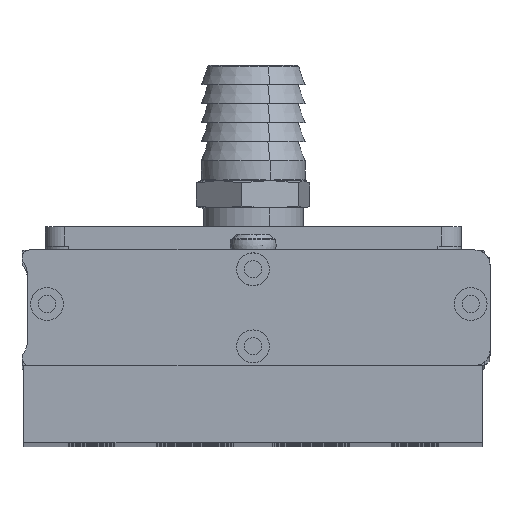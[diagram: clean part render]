
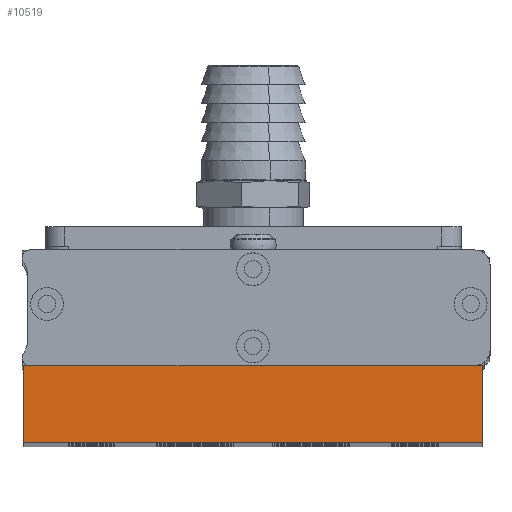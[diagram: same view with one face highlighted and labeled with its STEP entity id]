
A CAD part, top view. The second image highlights one B-rep face of the part: STEP entity #10519.
In plain terms, the highlighted planar face has unit normal (0, 0, 1).
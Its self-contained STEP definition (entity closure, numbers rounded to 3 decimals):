
#2150 = AXIS2_PLACEMENT_3D ( 'NONE', #27685, #33966, #25244 ) ;
#3622 = VECTOR ( 'NONE', #20690, 1000. ) ;
#5799 = PLANE ( 'NONE',  #2150 ) ;
#6305 = DIRECTION ( 'NONE',  ( 1., 0., 0. ) ) ;
#6623 = CARTESIAN_POINT ( 'NONE',  ( 36.4, -51.3, 297. ) ) ;
#6920 = CARTESIAN_POINT ( 'NONE',  ( -82.6, -71.3, 297. ) ) ;
#7080 = DIRECTION ( 'NONE',  ( 0., -1., 0. ) ) ;
#7533 = CARTESIAN_POINT ( 'NONE',  ( 36.4, -51.3, 297. ) ) ;
#9973 = VECTOR ( 'NONE', #7080, 1000. ) ;
#10519 = ADVANCED_FACE ( 'NONE', ( #10864 ), #5799, .F. ) ;
#10864 = FACE_OUTER_BOUND ( 'NONE', #13449, .T. ) ;
#11673 = CARTESIAN_POINT ( 'NONE',  ( -82.6, -71.3, 297. ) ) ;
#12363 = EDGE_CURVE ( 'NONE', #19229, #18068, #32591, .T. ) ;
#13449 = EDGE_LOOP ( 'NONE', ( #33932, #18809, #18543, #27839 ) ) ;
#15144 = EDGE_CURVE ( 'NONE', #17143, #15462, #33737, .T. ) ;
#15462 = VERTEX_POINT ( 'NONE', #16925 ) ;
#15481 = VECTOR ( 'NONE', #34349, 1000. ) ;
#15639 = EDGE_CURVE ( 'NONE', #18068, #15462, #28043, .T. ) ;
#16925 = CARTESIAN_POINT ( 'NONE',  ( 36.4, -71.3, 297. ) ) ;
#17143 = VERTEX_POINT ( 'NONE', #6623 ) ;
#18068 = VERTEX_POINT ( 'NONE', #11673 ) ;
#18543 = ORIENTED_EDGE ( 'NONE', *, *, #30074, .F. ) ;
#18809 = ORIENTED_EDGE ( 'NONE', *, *, #15144, .F. ) ;
#19229 = VERTEX_POINT ( 'NONE', #21949 ) ;
#20690 = DIRECTION ( 'NONE',  ( 0., -1., 0. ) ) ;
#21949 = CARTESIAN_POINT ( 'NONE',  ( -82.6, -51.3, 297. ) ) ;
#25244 = DIRECTION ( 'NONE',  ( 0., 1., 0. ) ) ;
#26425 = VECTOR ( 'NONE', #6305, 1000. ) ;
#27685 = CARTESIAN_POINT ( 'NONE',  ( -82.6, -51.3, 297. ) ) ;
#27839 = ORIENTED_EDGE ( 'NONE', *, *, #12363, .T. ) ;
#28043 = LINE ( 'NONE', #6920, #15481 ) ;
#30074 = EDGE_CURVE ( 'NONE', #19229, #17143, #32058, .T. ) ;
#30861 = CARTESIAN_POINT ( 'NONE',  ( -82.6, -51.3, 297. ) ) ;
#32058 = LINE ( 'NONE', #30861, #26425 ) ;
#32591 = LINE ( 'NONE', #34439, #3622 ) ;
#33737 = LINE ( 'NONE', #7533, #9973 ) ;
#33932 = ORIENTED_EDGE ( 'NONE', *, *, #15639, .T. ) ;
#33966 = DIRECTION ( 'NONE',  ( 0., 0., -1. ) ) ;
#34349 = DIRECTION ( 'NONE',  ( 1., 0., 0. ) ) ;
#34439 = CARTESIAN_POINT ( 'NONE',  ( -82.6, -51.3, 297. ) ) ;
